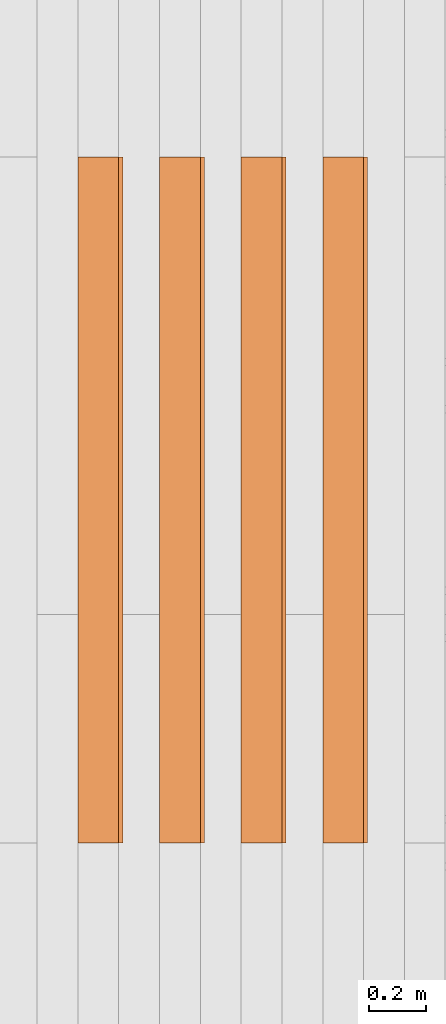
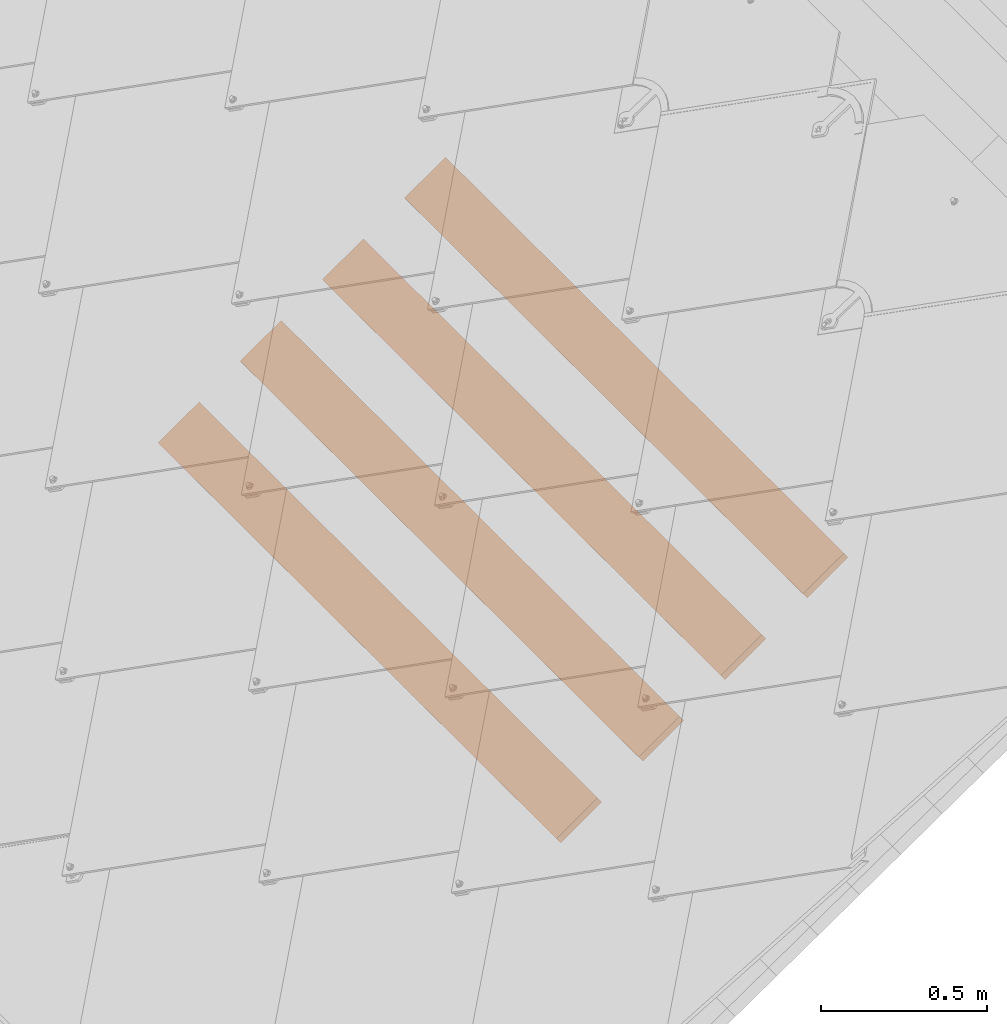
# One storey, part 49 of 151: 4 proxies, 1 element without a shape of its own.
"""IFC2X3 building model written with IfcOpenShell, lengths in millimetres."""

from ifc_helpers import new_model, entity, si_unit, converted_unit, derived_unit, direction, frame, frame_2d, origin, place, context, subcontext, project, spatial, rectangle, extrude, source, transform, mapped, material, type_object, type_shapes, element, aggregate, save


model = new_model("IFC2X3")

# Units and contexts
model_context = context("Model", 3, precision=0.01, world=origin(), true_north=direction((6.12303176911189e-17, 1.0)))
body_context = subcontext(model_context, "Body", "Model", "MODEL_VIEW")
ifc_project = project(units=[si_unit("LENGTHUNIT", "METRE", prefix="MILLI"), si_unit("AREAUNIT", "SQUARE_METRE"), si_unit("VOLUMEUNIT", "CUBIC_METRE"), converted_unit("PLANEANGLEUNIT", "DEGREE", entity("IfcRatioMeasure", 0.0174532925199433), si_unit("PLANEANGLEUNIT", "RADIAN"), dimensions=[0, 0, 0, 0, 0, 0, 0]), si_unit("MASSUNIT", "GRAM", prefix="KILO"), derived_unit("MASSDENSITYUNIT", [(si_unit("MASSUNIT", "GRAM", prefix="KILO"), 1), (si_unit("LENGTHUNIT", "METRE"), -3)]), si_unit("TIMEUNIT", "SECOND"), si_unit("FREQUENCYUNIT", "HERTZ"), si_unit("THERMODYNAMICTEMPERATUREUNIT", "DEGREE_CELSIUS"), derived_unit("THERMALTRANSMITTANCEUNIT", [(si_unit("MASSUNIT", "GRAM", prefix="KILO"), 1), (si_unit("THERMODYNAMICTEMPERATUREUNIT", "KELVIN"), -1), (si_unit("TIMEUNIT", "SECOND"), -3)]), derived_unit("VOLUMETRICFLOWRATEUNIT", [(si_unit("LENGTHUNIT", "METRE"), 3), (si_unit("TIMEUNIT", "SECOND"), -1)]), si_unit("ELECTRICCURRENTUNIT", "AMPERE"), si_unit("ELECTRICVOLTAGEUNIT", "VOLT"), si_unit("POWERUNIT", "WATT"), si_unit("FORCEUNIT", "NEWTON", prefix="KILO"), si_unit("ILLUMINANCEUNIT", "LUX"), si_unit("LUMINOUSFLUXUNIT", "LUMEN"), si_unit("LUMINOUSINTENSITYUNIT", "CANDELA"), derived_unit("USERDEFINED", [(si_unit("MASSUNIT", "GRAM", prefix="KILO"), -1), (si_unit("LENGTHUNIT", "METRE"), -2), (si_unit("TIMEUNIT", "SECOND"), 3), (si_unit("LUMINOUSFLUXUNIT", "LUMEN"), 1)]), derived_unit("LINEARVELOCITYUNIT", [(si_unit("LENGTHUNIT", "METRE"), 1), (si_unit("TIMEUNIT", "SECOND"), -1)]), si_unit("PRESSUREUNIT", "PASCAL"), derived_unit("USERDEFINED", [(si_unit("LENGTHUNIT", "METRE"), -2), (si_unit("MASSUNIT", "GRAM", prefix="KILO"), 1), (si_unit("TIMEUNIT", "SECOND"), -2)])], contexts=[model_context])

# Site, building, storey
site_placement = place(None, origin())
site = spatial("IfcSite", under=ifc_project, at=site_placement, Name="Default", CompositionType="ELEMENT")
building_placement = place(site_placement, origin())
building = spatial("IfcBuilding", under=site, at=building_placement, CompositionType="ELEMENT")
storey_placement = place(building_placement, origin())
storey = spatial("IfcBuildingStorey", under=building, at=storey_placement, Name="Level 1", CompositionType="ELEMENT", Elevation=0.0)

# Assembly, proxies
assembly_placement = place(storey_placement, origin())
assembly = element("IfcElementAssembly", 1, at=assembly_placement, inside=storey, Name="Structural Framing Assembly:Roof Construction Assembly", ObjectType="Structural Framing Assembly:Roof Construction Assembly", AssemblyPlace="NOTDEFINED", PredefinedType="USERDEFINED")
ifc_material = material(Name="Wood - Generic - Wood For Showcase")
building_element_proxy_type_1 = type_object("IfcBuildingElementProxyType", Name="Structural Framing 15", PredefinedType="NOTDEFINED", material=ifc_material)
shared_shape_1 = source(origin(), body_context, "Body", "SweptSolid", [
    extrude(rectangle(XDim=24.9999999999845, YDim=174.344679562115, at=frame_2d((-1.77635683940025e-13, -4.54747350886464e-13), x_axis=(0.0, 1.0))), frame((1128.20180147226, 1595.55080214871, 2760.23940055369), z_axis=(0.0, 1.0, 0.0), x_axis=(-0.819152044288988, 0.0, -0.573576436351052)), (0.0, 0.0, 1.0), 2400.0),
])
type_shapes(building_element_proxy_type_1, [shared_shape_1])
proxy_1_placement = place(assembly_placement, frame((-1227.84533495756, -3340.0, -900.0)))
proxy_1 = element("IfcBuildingElementProxy", 2, at=proxy_1_placement, type_object=building_element_proxy_type_1, material=ifc_material, Name="Structural Framing 61:Structural Framing 15", ObjectType="Structural Framing 61:Structural Framing 15", context=body_context, shape_type="MappedRepresentation", body=[
    mapped(shared_shape_1, transform((0.0, 0.0, 0.0), scale=1.0)),
])
building_element_proxy_type_2 = type_object("IfcBuildingElementProxyType", Name="Structural Framing 15", PredefinedType="NOTDEFINED", material=ifc_material)
shared_shape_2 = source(origin(), body_context, "Body", "SweptSolid", [
    extrude(rectangle(XDim=24.9999999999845, YDim=174.344679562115, at=frame_2d((-1.77635683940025e-13, -4.54747350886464e-13), x_axis=(0.0, 1.0))), frame((1128.20180147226, 1595.55080214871, 2760.23940055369), z_axis=(0.0, 1.0, 0.0), x_axis=(-0.819152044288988, 0.0, -0.573576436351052)), (0.0, 0.0, 1.0), 2400.0),
])
type_shapes(building_element_proxy_type_2, [shared_shape_2])
proxy_2_placement = place(assembly_placement, frame((-1513.47493630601, -3340.0, -1100.0)))
proxy_2 = element("IfcBuildingElementProxy", 3, at=proxy_2_placement, type_object=building_element_proxy_type_2, material=ifc_material, Name="Structural Framing 71:Structural Framing 15", ObjectType="Structural Framing 71:Structural Framing 15", context=body_context, shape_type="MappedRepresentation", body=[
    mapped(shared_shape_2, transform((0.0, 0.0, 0.0), scale=1.0)),
])
building_element_proxy_type_3 = type_object("IfcBuildingElementProxyType", Name="Structural Framing 15", PredefinedType="NOTDEFINED", material=ifc_material)
shared_shape_3 = source(origin(), body_context, "Body", "SweptSolid", [
    extrude(rectangle(XDim=24.9999999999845, YDim=174.344679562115, at=frame_2d((-1.77635683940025e-13, -4.54747350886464e-13), x_axis=(0.0, 1.0))), frame((1128.20180147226, 1595.55080214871, 2760.23940055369), z_axis=(0.0, 1.0, 0.0), x_axis=(-0.819152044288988, 0.0, -0.573576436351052)), (0.0, 0.0, 1.0), 2400.0),
])
type_shapes(building_element_proxy_type_3, [shared_shape_3])
proxy_3_placement = place(assembly_placement, frame((-1799.10453765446, -3340.0, -1300.0)))
proxy_3 = element("IfcBuildingElementProxy", 4, at=proxy_3_placement, type_object=building_element_proxy_type_3, material=ifc_material, Name="Structural Framing 81:Structural Framing 15", ObjectType="Structural Framing 81:Structural Framing 15", context=body_context, shape_type="MappedRepresentation", body=[
    mapped(shared_shape_3, transform((0.0, 0.0, 0.0), scale=1.0)),
])
building_element_proxy_type_4 = type_object("IfcBuildingElementProxyType", Name="Structural Framing 15", PredefinedType="NOTDEFINED", material=ifc_material)
shared_shape_4 = source(origin(), body_context, "Body", "SweptSolid", [
    extrude(rectangle(XDim=24.9999999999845, YDim=174.344679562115, at=frame_2d((-1.77635683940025e-13, -4.54747350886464e-13), x_axis=(0.0, 1.0))), frame((1128.20180147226, 1595.55080214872, 2760.23940055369), z_axis=(0.0, 1.0, 0.0), x_axis=(-0.819152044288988, 0.0, -0.573576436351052)), (0.0, 0.0, 1.0), 2400.0),
])
type_shapes(building_element_proxy_type_4, [shared_shape_4])
proxy_4_placement = place(assembly_placement, frame((-2084.73413900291, -3340.0, -1500.0)))
proxy_4 = element("IfcBuildingElementProxy", 5, at=proxy_4_placement, type_object=building_element_proxy_type_4, material=ifc_material, Name="Structural Framing 91:Structural Framing 15", ObjectType="Structural Framing 91:Structural Framing 15", context=body_context, shape_type="MappedRepresentation", body=[
    mapped(shared_shape_4, transform((0.0, 0.0, 0.0), scale=1.0)),
])
aggregate(assembly, [proxy_1, proxy_2, proxy_3, proxy_4])

save(model, "model.ifc")
